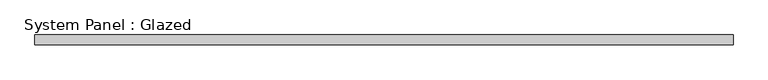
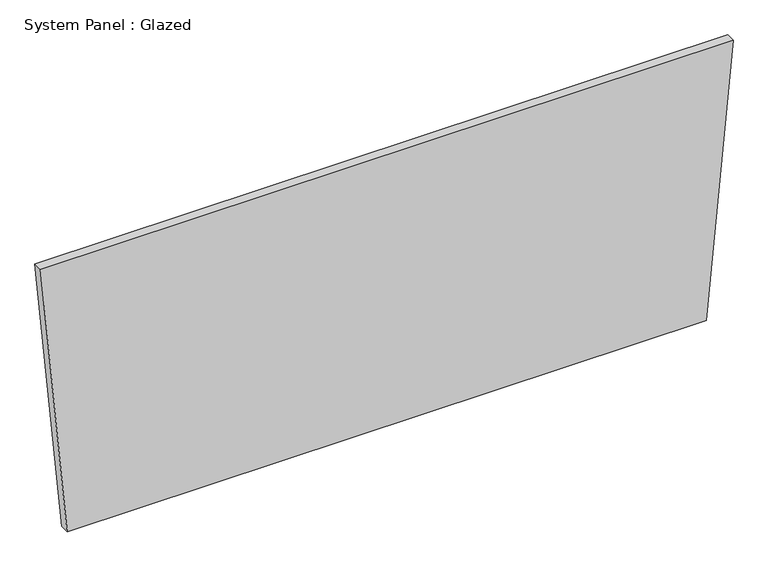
"""IFC4 building model written with IfcOpenShell, lengths in millimetres: plate geometry, System Panel : Glazed."""

import ifcopenshell
import ifcopenshell.guid

model = None  # the IFC model being written
_history = None  # IfcOwnerHistory: only IFC2X3 demands one
_inside = {}  # id of a spatial element -> (the spatial element, [elements in it])
_under = {}  # id of a project, library or spatial element -> (it, [spatial elements below it])
_declared = {}  # id of a project -> (the project, [libraries it declares])
_typed = {}  # id of a type object -> (the type object, [elements of that type])
_made_of = {}  # id of a material, layer set ... -> (it, [elements and type objects made of it])


def new_model(schema):
    """Start an empty IFC model of exactly this schema.

    Asked for "IFC4X3", IfcOpenShell would pick the latest addendum, in which some entities
    have other attributes; the version numbers below select the first issue.
    IFC2X3 requires an IfcOwnerHistory on every rooted entity: one is made here for all.
    """
    global model, _history
    if schema == "IFC4X3":
        model = ifcopenshell.file(schema_version=(4, 3, 0, 0))
    else:
        model = ifcopenshell.file(schema=schema)
    _inside.clear()
    _under.clear()
    _declared.clear()
    _typed.clear()
    _made_of.clear()
    _history = None
    if model.schema == "IFC2X3":
        org = make("IfcOrganization", Name="unknown")
        user = make(
            "IfcPersonAndOrganization",
            ThePerson=make("IfcPerson", FamilyName="unknown"),
            TheOrganization=org,
        )
        app = make(
            "IfcApplication",
            ApplicationDeveloper=org,
            Version="unknown",
            ApplicationFullName="unknown",
            ApplicationIdentifier="unknown",
        )
        _history = make(
            "IfcOwnerHistory",
            OwningUser=user,
            OwningApplication=app,
            ChangeAction="ADDED",
            CreationDate=0,
        )
    return model


def make(cls, **values):
    """One entity of the class cls with the attributes given. An attribute that is None is left unset."""
    return model.create_entity(
        cls, **{name: value for name, value in values.items() if value is not None}
    )


def rooted(cls, **values):
    """An entity with a GlobalId (a new one), such as an element, a storey or a relation."""
    return make(cls, GlobalId=ifcopenshell.guid.new(), OwnerHistory=_history, **values)


def si_unit(unit_type, name, prefix=None):
    """IfcSIUnit, for example si_unit("LENGTHUNIT", "METRE", prefix="MILLI")."""
    return make("IfcSIUnit", UnitType=unit_type, Prefix=prefix, Name=name)


def assignment(units):
    """IfcUnitAssignment: the units of a project."""
    return None if units is None else make("IfcUnitAssignment", Units=units)


def point(xyz):
    """IfcCartesianPoint."""
    return None if xyz is None else make("IfcCartesianPoint", Coordinates=xyz)


def direction(xyz):
    """IfcDirection."""
    return None if xyz is None else make("IfcDirection", DirectionRatios=xyz)


def frame(location, z_axis=None, x_axis=None):
    """IfcAxis2Placement3D, a coordinate frame: its origin and axes. An axis left out is left unset."""
    return make(
        "IfcAxis2Placement3D",
        Location=point(location),
        Axis=direction(z_axis),
        RefDirection=direction(x_axis),
    )


def origin():
    """The frame at (0, 0, 0) with its axes left unset."""
    return frame((0.0, 0.0, 0.0))


def place(relative_to, where):
    """IfcLocalPlacement: puts the frame where relative to a parent placement (None: the world)."""
    return make(
        "IfcLocalPlacement", PlacementRelTo=relative_to, RelativePlacement=where
    )


def context(
    kind, dimensions, precision=None, world=None, true_north=None, identifier=None
):
    """IfcGeometricRepresentationContext, for example the 3D "Model" context."""
    return make(
        "IfcGeometricRepresentationContext",
        ContextIdentifier=identifier,
        ContextType=kind,
        CoordinateSpaceDimension=dimensions,
        Precision=precision,
        WorldCoordinateSystem=world,
        TrueNorth=true_north,
    )


def project(units=None, contexts=None):
    """IfcProject with its units and contexts."""
    return rooted(
        "IfcProject",
        Name="project",
        RepresentationContexts=contexts,
        UnitsInContext=assignment(units),
    )


def spatial(cls, under=None, at=None, **own):
    """A site, building, storey or space (cls), placed at a placement, below another one or the project."""
    s = rooted(cls, ObjectPlacement=at, **own)
    if under is not None:
        _under.setdefault(under.id(), (under, []))[1].append(s)
    return s


def polyline(points):
    """IfcPolyline through the points."""
    return make("IfcPolyline", Points=[point(p) for p in points])


def outline(outer, holes=None, kind="AREA"):
    """IfcArbitraryClosedProfileDef: a profile drawn as a closed curve; with holes, ...WithVoids."""
    if holes is None:
        return make("IfcArbitraryClosedProfileDef", ProfileType=kind, OuterCurve=outer)
    return make(
        "IfcArbitraryProfileDefWithVoids",
        ProfileType=kind,
        OuterCurve=outer,
        InnerCurves=holes,
    )


def extrude(swept, where, along, depth):
    """IfcExtrudedAreaSolid: the profile swept, set in the frame where, extruded along a direction by depth."""
    return make(
        "IfcExtrudedAreaSolid",
        SweptArea=swept,
        Position=where,
        ExtrudedDirection=direction(along),
        Depth=depth,
    )


def shape(context_of_items, identifier, shape_type, items):
    """IfcShapeRepresentation: the items that make up one representation, for example the "Body"."""
    return make(
        "IfcShapeRepresentation",
        ContextOfItems=context_of_items,
        RepresentationIdentifier=identifier,
        RepresentationType=shape_type,
        Items=items,
    )


def source(mapping_origin, context_of_items, identifier, shape_type, items):
    """IfcRepresentationMap: a shape defined once, which mapped items show again and again."""
    return make(
        "IfcRepresentationMap",
        MappingOrigin=mapping_origin,
        MappedRepresentation=shape(context_of_items, identifier, shape_type, items),
    )


def transform(
    local_origin,
    x_axis=None,
    y_axis=None,
    z_axis=None,
    scale=None,
    scale2=None,
    scale3=None,
    uniform=True,
):
    """IfcCartesianTransformationOperator3D, or its non-uniform kind. x_axis, y_axis, z_axis: its Axis1, 2, 3."""
    if uniform:
        return make(
            "IfcCartesianTransformationOperator3D",
            Axis1=direction(x_axis),
            Axis2=direction(y_axis),
            LocalOrigin=point(local_origin),
            Scale=scale,
            Axis3=direction(z_axis),
        )
    return make(
        "IfcCartesianTransformationOperator3DnonUniform",
        Axis1=direction(x_axis),
        Axis2=direction(y_axis),
        LocalOrigin=point(local_origin),
        Scale=scale,
        Axis3=direction(z_axis),
        Scale2=scale2,
        Scale3=scale3,
    )


def mapped(mapping_source, mapping_target):
    """IfcMappedItem: shows the shape of a source again, moved by a transform."""
    return make(
        "IfcMappedItem", MappingSource=mapping_source, MappingTarget=mapping_target
    )


def made_of(thing, what):
    """Note that an element or type object is made of a material, layer set ...; save() writes the relation."""
    if what is not None:
        _made_of.setdefault(what.id(), (what, []))[1].append(thing)
    return thing


def element(
    cls,
    number,
    at=None,
    inside=None,
    cuts=None,
    type_object=None,
    material=None,
    context=None,
    identifier="Body",
    shape_type=None,
    held_by="IfcProductDefinitionShape",
    body=None,
    shapes=None,
    **own,
):
    """One element of the class cls, such as IfcWall. Its Tag is "e" and its number.

    at: its placement. inside: the storey or other place that contains it. cuts: it is an
    opening in that element (IfcRelVoidsElement). A single representation is given by context,
    identifier, shape_type and body (its items); several are given by shapes. held_by: the class
    of the entity that holds the representations. save() writes the other relations.
    """
    e = rooted(cls, Tag="e%d" % number, ObjectPlacement=at, **own)
    if body is not None:
        shapes = [shape(context, identifier, shape_type, body)]
    if shapes is not None:
        e.Representation = make(held_by, Representations=shapes)
    if inside is not None:
        _inside.setdefault(inside.id(), (inside, []))[1].append(e)
    if cuts is not None:
        rooted(
            "IfcRelVoidsElement", RelatingBuildingElement=cuts, RelatedOpeningElement=e
        )
    if type_object is not None:
        _typed.setdefault(type_object.id(), (type_object, []))[1].append(e)
    return made_of(e, material)


def aggregate(whole, parts):
    """IfcRelAggregates: a whole, such as a stair, and the parts it consists of."""
    return rooted("IfcRelAggregates", RelatingObject=whole, RelatedObjects=parts)


def save(model, path):
    """Write the relations noted so far, then the file.

    IfcRelAggregates (storeys below a building ...), IfcRelContainedInSpatialStructure (elements
    in a storey), IfcRelDefinesByType, IfcRelAssociatesMaterial and IfcRelDeclares: one each for
    every whole, place, type object, material and project.
    """
    for whole, parts in _under.values():
        aggregate(whole, parts)
    for where, things in _inside.values():
        rooted(
            "IfcRelContainedInSpatialStructure",
            RelatedElements=things,
            RelatingStructure=where,
        )
    for kind, things in _typed.values():
        rooted("IfcRelDefinesByType", RelatedObjects=things, RelatingType=kind)
    for what, things in _made_of.values():
        rooted("IfcRelAssociatesMaterial", RelatedObjects=things, RelatingMaterial=what)
    for by, libraries in _declared.values():
        rooted("IfcRelDeclares", RelatingContext=by, RelatedDefinitions=libraries)
    model.write(path)


def system_panel_glazed_88a27ec3(model_context):
    return source(origin(), model_context, "Body", "SweptSolid", [
        extrude(outline(polyline([(0.0, -845.363099), (0.0, 845.363099), (758.7366017, 915.810024), (758.7366017, -915.810024), (0.0, -845.363099)])), frame((0.0, -44.45, 0.0), z_axis=(0.0, 1.0, 0.0), x_axis=(0.0, 0.0, 1.0)), (0.0, 0.0, 1.0), 25.4),
    ])


if __name__ == "__main__":
    model = new_model("IFC4")
    model_context = context("Model", 3, world=origin())
    ifc_project = project(units=[si_unit("LENGTHUNIT", "METRE", prefix="MILLI")], contexts=[model_context])
    site = spatial("IfcSite", under=ifc_project)
    building = spatial("IfcBuilding", under=site)
    placement = place(None, origin())
    system_panel_glazed_shape = system_panel_glazed_88a27ec3(model_context)
    element("IfcPlate", 1, ObjectType="System Panel : Glazed", at=placement, inside=building, context=model_context, shape_type="MappedRepresentation", body=[
        mapped(system_panel_glazed_shape, transform((0.0, 0.0, 0.0), x_axis=(1.0, 0.0, 0.0), y_axis=(0.0, 1.0, 0.0), z_axis=(0.0, 0.0, 1.0))),
    ])
    save(model, "model.ifc")
